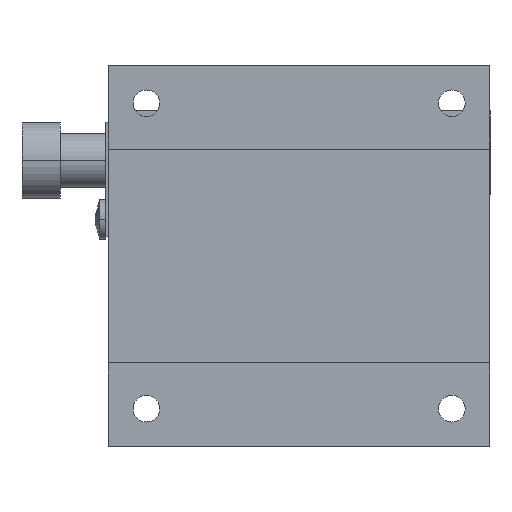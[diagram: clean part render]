
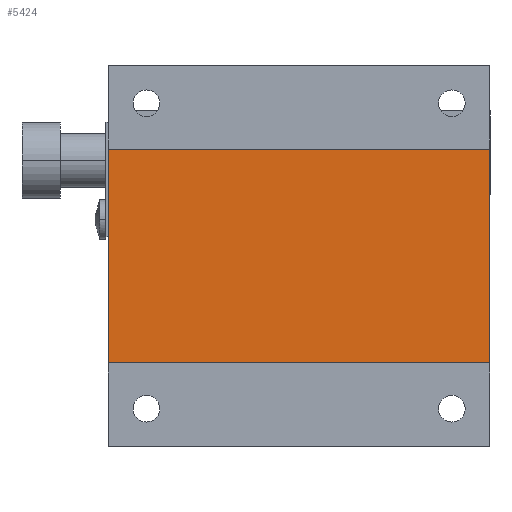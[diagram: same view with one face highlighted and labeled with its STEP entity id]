
A CAD part, front view. The second image highlights one B-rep face of the part: STEP entity #5424.
In plain terms, the highlighted planar face has unit normal (0, -1, 0).
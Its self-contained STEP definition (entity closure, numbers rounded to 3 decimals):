
#572 = DIRECTION ( 'NONE',  ( 0., 0., -1. ) ) ;
#587 = VECTOR ( 'NONE', #572, 1000. ) ;
#589 = CARTESIAN_POINT ( 'NONE',  ( -25., 0.5, -39. ) ) ;
#590 = LINE ( 'NONE', #589, #587 ) ;
#829 = CARTESIAN_POINT ( 'NONE',  ( -25., 0.5, -11. ) ) ;
#849 = CARTESIAN_POINT ( 'NONE',  ( -25., 0.5, -39. ) ) ;
#2965 = CARTESIAN_POINT ( 'NONE',  ( 25., 0.5, -11. ) ) ;
#2997 = DIRECTION ( 'NONE',  ( 0., 0., -1. ) ) ;
#2998 = VECTOR ( 'NONE', #2997, 1000. ) ;
#2999 = CARTESIAN_POINT ( 'NONE',  ( 25., 0.5, -39. ) ) ;
#3000 = LINE ( 'NONE', #2999, #2998 ) ;
#3009 = CARTESIAN_POINT ( 'NONE',  ( 25., 0.5, -39. ) ) ;
#5417 = EDGE_CURVE ( 'NONE', #9587, #6085, #8351, .T. ) ;
#5423 = ORIENTED_EDGE ( 'NONE', *, *, #5425, .F. ) ;
#5424 = ADVANCED_FACE ( 'NONE', ( #8344 ), #8366, .F. ) ;
#5425 = EDGE_CURVE ( 'NONE', #9598, #6086, #8408, .T. ) ;
#5436 = ORIENTED_EDGE ( 'NONE', *, *, #6087, .T. ) ;
#5479 = ORIENTED_EDGE ( 'NONE', *, *, #5417, .T. ) ;
#5480 = ORIENTED_EDGE ( 'NONE', *, *, #9599, .F. ) ;
#5491 = EDGE_LOOP ( 'NONE', ( #5436, #5423, #5480, #5479 ) ) ;
#6085 = VERTEX_POINT ( 'NONE', #829 ) ;
#6086 = VERTEX_POINT ( 'NONE', #849 ) ;
#6087 = EDGE_CURVE ( 'NONE', #6085, #6086, #590, .T. ) ;
#8344 = FACE_OUTER_BOUND ( 'NONE', #5491, .T. ) ;
#8345 = AXIS2_PLACEMENT_3D ( 'NONE', #8406, #8405, #8404 ) ;
#8348 = DIRECTION ( 'NONE',  ( -1., 0., 0. ) ) ;
#8349 = VECTOR ( 'NONE', #8348, 1000. ) ;
#8350 = CARTESIAN_POINT ( 'NONE',  ( 25., 0.5, -11. ) ) ;
#8351 = LINE ( 'NONE', #8350, #8349 ) ;
#8366 = PLANE ( 'NONE',  #8345 ) ;
#8399 = DIRECTION ( 'NONE',  ( -1., 0., 0. ) ) ;
#8400 = VECTOR ( 'NONE', #8399, 1000. ) ;
#8404 = DIRECTION ( 'NONE',  ( 0., 0., 1. ) ) ;
#8405 = DIRECTION ( 'NONE',  ( 0., 1., 0. ) ) ;
#8406 = CARTESIAN_POINT ( 'NONE',  ( 25., 0.5, -39. ) ) ;
#8407 = CARTESIAN_POINT ( 'NONE',  ( 25., 0.5, -39. ) ) ;
#8408 = LINE ( 'NONE', #8407, #8400 ) ;
#9587 = VERTEX_POINT ( 'NONE', #2965 ) ;
#9598 = VERTEX_POINT ( 'NONE', #3009 ) ;
#9599 = EDGE_CURVE ( 'NONE', #9587, #9598, #3000, .T. ) ;
